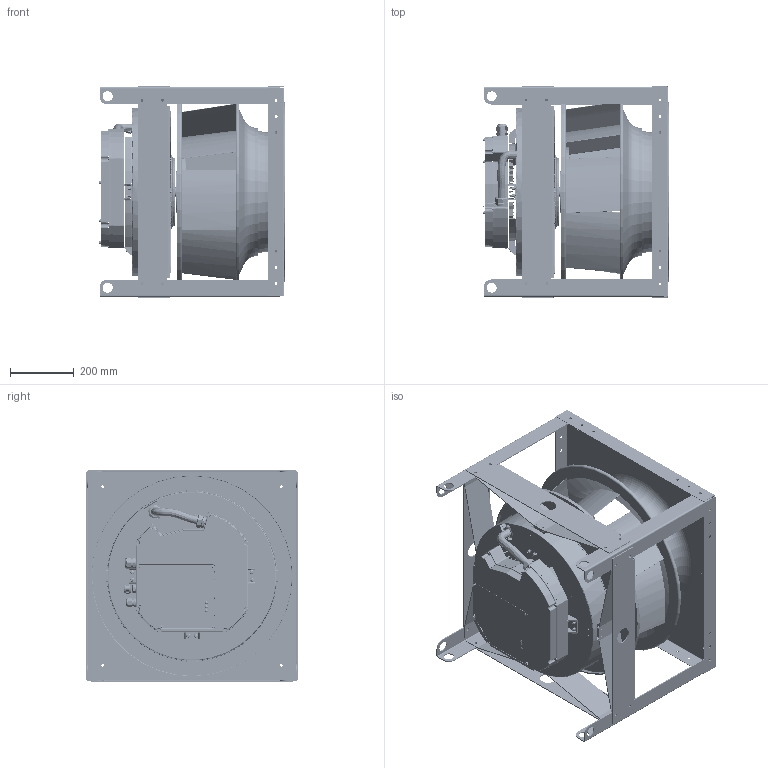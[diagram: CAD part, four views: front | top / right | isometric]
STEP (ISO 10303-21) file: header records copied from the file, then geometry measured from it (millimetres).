
FILE_DESCRIPTION (( 'STEP AP214' ), '1' );
FILE_NAME ('655784.STEP', '2026-06-10T13:10:25', ( '' ), ( '' ), 'SwSTEP 2.0', 'SolidWorks 2023', '' );
FILE_SCHEMA (( 'AUTOMOTIVE_DESIGN' ));
Length unit declared in the file: inch
Products named in the file (8): 925959CS_925959CS; 655784; SXPI STRAP_651579; 651560_651560; 651583_651583; 768038CS_768038CS; 651559_651559; 768050CS_768050CS
Assembly tree (16 placements, depth 2):
  655784
    651559_651559
    768050CS_768050CS
    768038CS_768038CS
    925959CS_925959CS
    651560_651560  x4
    651583_651583  x4
    SXPI STRAP_651579  x4
Bounding box: 581.38 x 663.7 x 663.7 mm (x, y, z)
Volume: 8285557.8 mm3; surface area: 6662315.4 mm2
Topology: 26 solids, 318 shells, 3942 faces, 12594 edges, 8662 vertices
Faces by surface type: plane 1137, cylinder 1089, bspline 1013, cone 329, torus 306, sphere 68
Full cylindrical faces by diameter (mm): 2.9 x2, 3.962 x4, 5.105 x16, 6 x37, 7 x5, 7.137 x16, 7.544 x1, 7.937 x3, 7.938 x1, 8.5 x1, 8.738 x87, 9 x4, 9.73 x8, 10 x8, 10.1 x1, 11.8 x16, 12.5 x1, 12.6 x1, 13 x15, 14 x1, 17.462 x2, 17.463 x2, 23.5 x1, 23.92 x1, 24.282 x1, 25.5 x3, 26.2 x1, 26.35 x1, 26.416 x2, 26.5 x1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
Entity records: 269755 total; most frequent: CARTESIAN_POINT 180281, ORIENTED_EDGE 17902, DIRECTION 15907, EDGE_CURVE 11339, VERTEX_POINT 8071, AXIS2_PLACEMENT_3D 6387, EDGE_LOOP 4461, B_SPLINE_CURVE_WITH_KNOTS 3905
